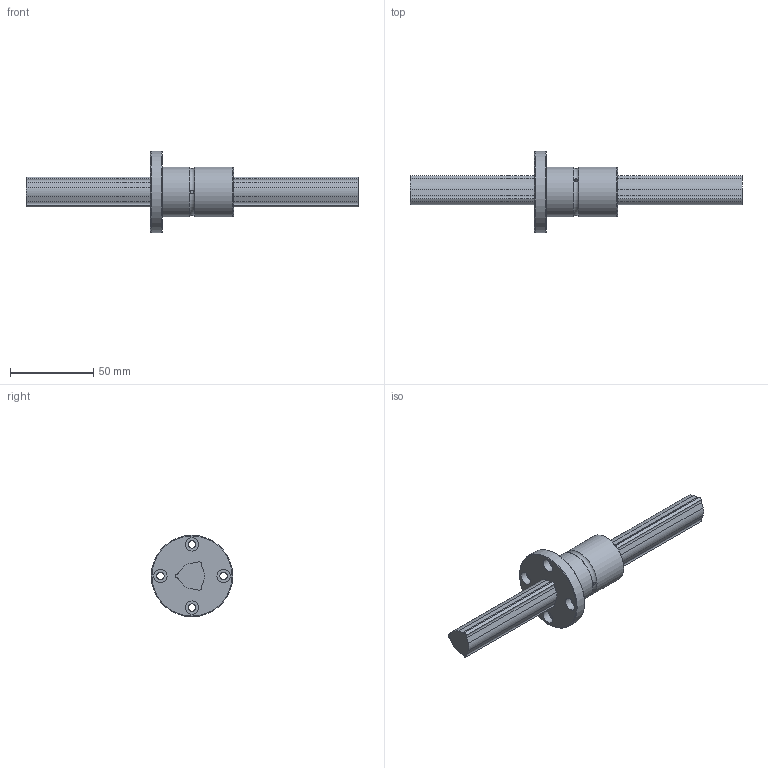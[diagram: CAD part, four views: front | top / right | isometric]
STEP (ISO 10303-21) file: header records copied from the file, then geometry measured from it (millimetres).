
FILE_DESCRIPTION(/* description */ ('STEP AP214'),/* implementation_level */ '2;1');
FILE_NAME(/* name */ 'LBF20+200L(200750)',/* time_stamp */ '2024-09-04T13:00:16+02:00',/* author */ ('License CC BY-ND 4.0'),/* organization */ ('CADENAS'),/* preprocessor_version */ 'ST-DEVELOPER v19.3',/* originating_system */ 'PARTsolutions',/* authorisation */ ' ');
FILE_SCHEMA (('AUTOMOTIVE_DESIGN {1 0 10303 214 3 1 1}'));
Length unit declared in the file: millimetre
Products named in the file (3): LBF20+200L(200750); LBF201200 Spline Shaft; LBF20 Nut
Assembly tree (2 placements, depth 2):
  LBF20+200L(200750)
    LBF201200 Spline Shaft
    LBF20 Nut
Bounding box: 200 x 49 x 49 mm (x, y, z)
Volume: 73519.4 mm3; surface area: 23599.1 mm2
Topology: 2 solids, 2 shells, 66 faces, 165 edges, 111 vertices
Faces by surface type: cylinder 38, plane 24, torus 2, cone 2
Full cylindrical faces by diameter (mm): 2 x3, 4.5 x4, 8 x4, 30 x2, 49 x1
Entity records: 1966 total; most frequent: DIRECTION 350, CARTESIAN_POINT 341, ORIENTED_EDGE 278, AXIS2_PLACEMENT_3D 145, EDGE_CURVE 139, VERTEX_POINT 103, EDGE_LOOP 102, FACE_BOUND 102
